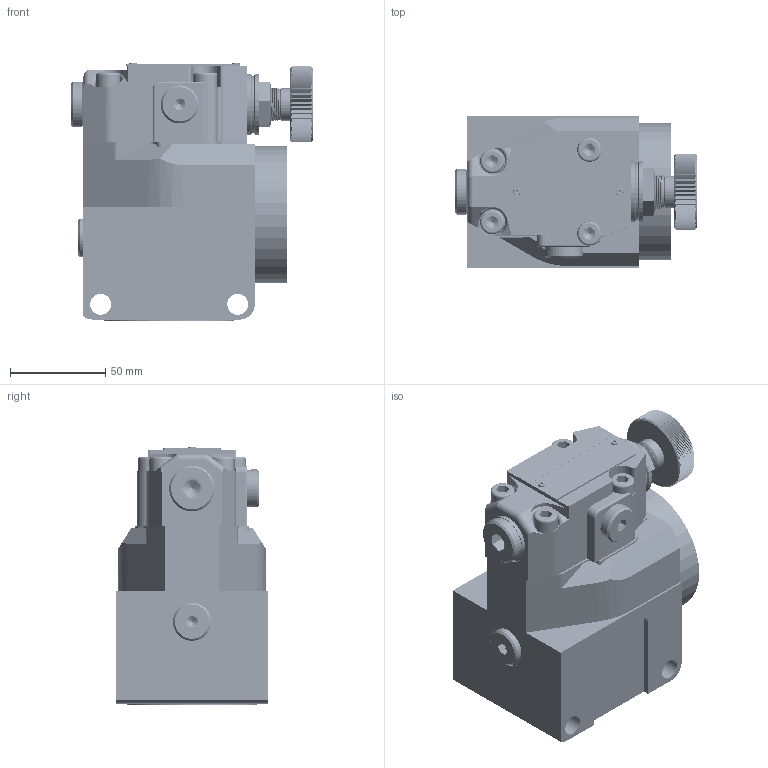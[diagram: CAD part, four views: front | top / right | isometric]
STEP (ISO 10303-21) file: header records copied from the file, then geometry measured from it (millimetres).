
FILE_DESCRIPTION(/* description */ (''),/* implementation_level */ '2;1');
FILE_NAME(/* name */ 'DR10G-5XJ.stp',/* time_stamp */ '2022-06-06T10:52:14+08:00',/* author */ (''),/* organization */ (''),/* preprocessor_version */ 'ST-DEVELOPER v16.7',/* originating_system */ 'SIEMENS PLM Software NX 12.0',/* authorisation */ '');
FILE_SCHEMA (('AUTOMOTIVE_DESIGN { 1 0 10303 214 3 1 1 1 }'));
Products named in the file (1): DR10G
Bounding box: 126.97 x 80 x 136 mm (x, y, z)
Volume: 595764.9 mm3; surface area: 136415.3 mm2
Topology: 20 solids, 22 shells, 1220 faces, 3322 edges, 2171 vertices
Faces by surface type: plane 640, cylinder 418, cone 68, bspline 64, torus 30
Full cylindrical faces by diameter (mm): 1.5 x2, 1.8 x4, 1.9 x2, 3 x17, 3.3 x2, 4 x2, 4.2 x10, 5 x1, 6 x2, 6.7 x48, 7 x1, 8 x93, 8.4 x4, 9 x7, 9.5 x1, 11 x3, 11.5 x7, 12 x3, 12.2 x2, 12.73 x4, 13 x3, 14.3 x1, 14.46 x1, 15.9 x1, 16 x2, 16.1 x1, 16.5 x4, 17 x12, 17.5 x2, 18 x10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
Entity records: 101334 total; most frequent: CARTESIAN_POINT 78323, ORIENTED_EDGE 4870, DIRECTION 3718, EDGE_CURVE 2435, VERTEX_POINT 1680, AXIS2_PLACEMENT_3D 1413, EDGE_LOOP 1261, B_SPLINE_CURVE_WITH_KNOTS 1074
